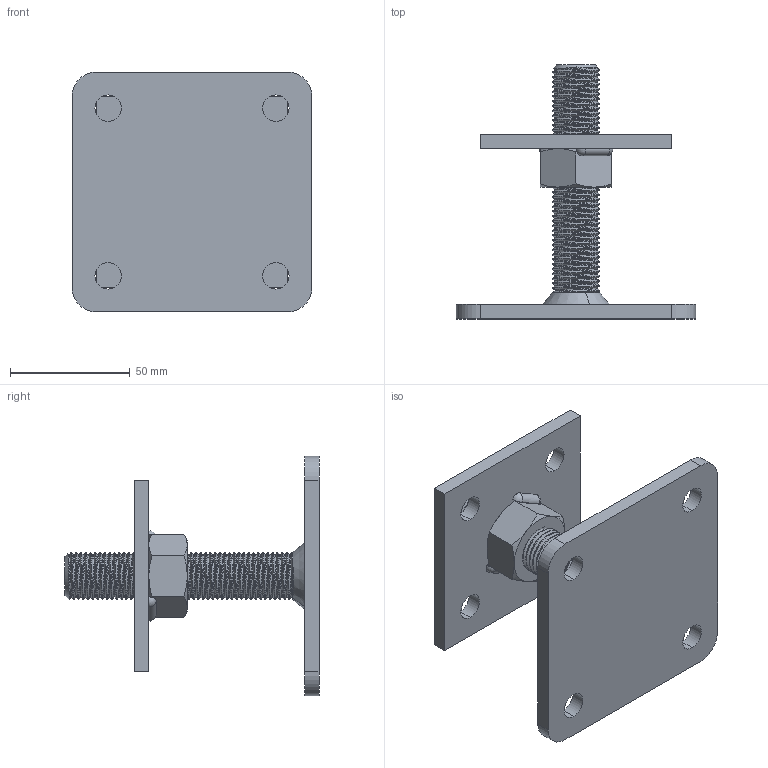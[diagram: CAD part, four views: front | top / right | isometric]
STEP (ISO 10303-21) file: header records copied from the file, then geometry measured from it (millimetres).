
FILE_DESCRIPTION (( 'STEP AP203' ), '1' );
FILE_NAME ('19823201.STEP', '2021-08-26T12:23:18', ( '' ), ( '' ), 'SwSTEP 2.0', 'SolidWorks 2013', '' );
FILE_SCHEMA (( 'CONFIG_CONTROL_DESIGN' ));
Length unit declared in the file: millimetre
Products named in the file (6): Gewindestange M20x100; Platte 80x80x6; Platte 100x100x6; 19823201; Schweissnaht d20; Mutter M16
Assembly tree (5 placements, depth 2):
  19823201
    Platte 100x100x6
    Schweissnaht d20
    Gewindestange M20x100
    Mutter M16
    Platte 80x80x6
Bounding box: 100 x 106 x 100 mm (x, y, z)
Volume: 128170.1 mm3; surface area: 51508.5 mm2
Topology: 5 solids, 5 shells, 188 faces, 513 edges, 330 vertices
Faces by surface type: cylinder 132, plane 33, cone 16, sphere 4, bspline 3
Entity records: 16236 total; most frequent: CARTESIAN_POINT 11421, ORIENTED_EDGE 1018, DIRECTION 760, EDGE_CURVE 509, VERTEX_POINT 330, AXIS2_PLACEMENT_3D 288, EDGE_LOOP 209, FACE_OUTER_BOUND 188
